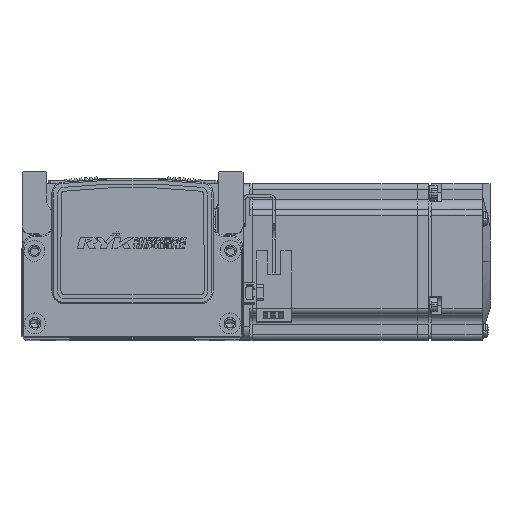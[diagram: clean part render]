
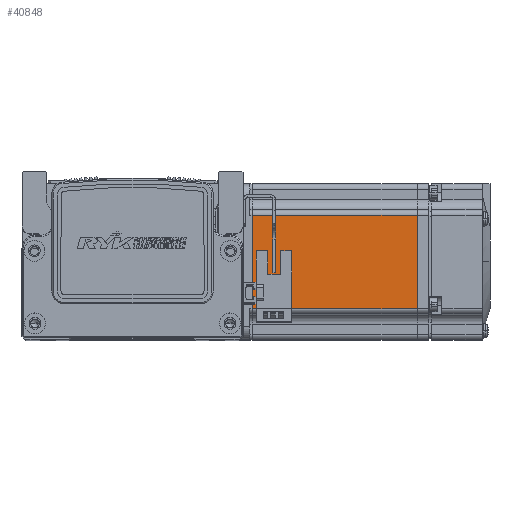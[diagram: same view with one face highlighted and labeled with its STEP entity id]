
A CAD part, top view. The second image highlights one B-rep face of the part: STEP entity #40848.
In plain terms, the highlighted planar face has unit normal (0, 0, 1) as drawn and (0, 0, -1) by its records, which use the part's own axes.
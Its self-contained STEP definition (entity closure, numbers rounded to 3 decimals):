
#429 = CARTESIAN_POINT ( 'NONE',  ( -70.95, 18., -30. ) ) ;
#587 = CARTESIAN_POINT ( 'NONE',  ( -7.75, 18., -30. ) ) ;
#589 = CARTESIAN_POINT ( 'NONE',  ( -7.75, -18., -30. ) ) ;
#607 = CARTESIAN_POINT ( 'NONE',  ( -70.95, -18., -30. ) ) ;
#1941 = FACE_OUTER_BOUND ( 'NONE', #70105, .T. ) ;
#6889 = ORIENTED_EDGE ( 'NONE', *, *, #32264, .T. ) ;
#6915 = ORIENTED_EDGE ( 'NONE', *, *, #32341, .T. ) ;
#6917 = ORIENTED_EDGE ( 'NONE', *, *, #32250, .T. ) ;
#6918 = ORIENTED_EDGE ( 'NONE', *, *, #32294, .T. ) ;
#13596 = AXIS2_PLACEMENT_3D ( 'NONE', #63178, #63193, #63166 ) ;
#23337 = VECTOR ( 'NONE', #37339, 1000. ) ;
#23341 = LINE ( 'NONE', #37296, #23347 ) ;
#23346 = LINE ( 'NONE', #37313, #23383 ) ;
#23347 = VECTOR ( 'NONE', #37275, 1000. ) ;
#23380 = LINE ( 'NONE', #37326, #23337 ) ;
#23383 = VECTOR ( 'NONE', #37286, 1000. ) ;
#23438 = VECTOR ( 'NONE', #37361, 1000. ) ;
#23450 = LINE ( 'NONE', #37371, #23438 ) ;
#32250 = EDGE_CURVE ( 'NONE', #39465, #39344, #23346, .T. ) ;
#32264 = EDGE_CURVE ( 'NONE', #39463, #39464, #23341, .T. ) ;
#32294 = EDGE_CURVE ( 'NONE', #39344, #39463, #23380, .T. ) ;
#32341 = EDGE_CURVE ( 'NONE', #39464, #39465, #23450, .T. ) ;
#37275 = DIRECTION ( 'NONE',  ( 0., -1., 0. ) ) ;
#37286 = DIRECTION ( 'NONE',  ( 0., 1., 0. ) ) ;
#37296 = CARTESIAN_POINT ( 'NONE',  ( -7.75, 25., -30. ) ) ;
#37313 = CARTESIAN_POINT ( 'NONE',  ( -70.95, 25., -30. ) ) ;
#37326 = CARTESIAN_POINT ( 'NONE',  ( -6.5, 18., -30. ) ) ;
#37339 = DIRECTION ( 'NONE',  ( 1., 0., 0. ) ) ;
#37361 = DIRECTION ( 'NONE',  ( -1., 0., 0. ) ) ;
#37371 = CARTESIAN_POINT ( 'NONE',  ( -6.5, -18., -30. ) ) ;
#39344 = VERTEX_POINT ( 'NONE', #429 ) ;
#39463 = VERTEX_POINT ( 'NONE', #587 ) ;
#39464 = VERTEX_POINT ( 'NONE', #589 ) ;
#39465 = VERTEX_POINT ( 'NONE', #607 ) ;
#40848 = ADVANCED_FACE ( 'NONE', ( #1941 ), #63188, .T. ) ;
#63166 = DIRECTION ( 'NONE',  ( -1., 0., 0. ) ) ;
#63178 = CARTESIAN_POINT ( 'NONE',  ( -6.5, 25., -30. ) ) ;
#63188 = PLANE ( 'NONE',  #13596 ) ;
#63193 = DIRECTION ( 'NONE',  ( 0., 0., -1. ) ) ;
#70105 = EDGE_LOOP ( 'NONE', ( #6889, #6915, #6917, #6918 ) ) ;
